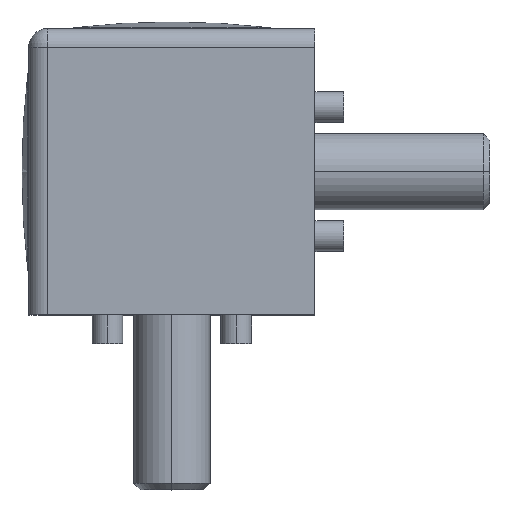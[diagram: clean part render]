
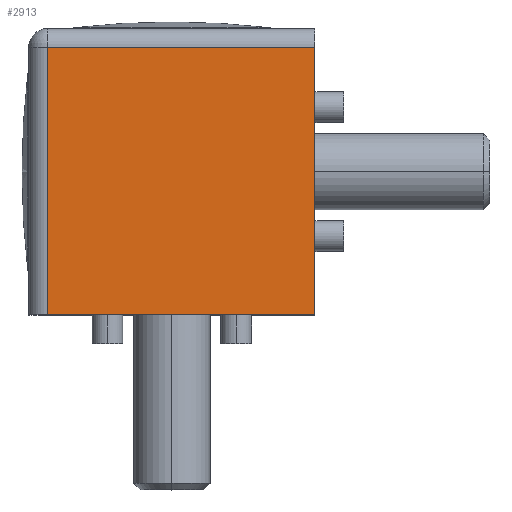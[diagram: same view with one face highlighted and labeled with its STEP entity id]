
A CAD part, top view. The second image highlights one B-rep face of the part: STEP entity #2913.
In plain terms, the highlighted planar face has unit normal (0, 0, 1).
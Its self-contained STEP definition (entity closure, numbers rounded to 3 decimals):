
#133 = PLANE('',#134);
#134 = AXIS2_PLACEMENT_3D('',#135,#136,#137);
#135 = CARTESIAN_POINT('',(0.,-30.,30.));
#136 = DIRECTION('',(0.,1.,0.));
#137 = DIRECTION('',(0.,-0.,1.));
#610 = PLANE('',#611);
#611 = AXIS2_PLACEMENT_3D('',#612,#613,#614);
#612 = CARTESIAN_POINT('',(30.,0.,30.));
#613 = DIRECTION('',(-1.,0.,0.));
#614 = DIRECTION('',(0.,-1.,0.));
#2010 = VERTEX_POINT('',#2011);
#2011 = CARTESIAN_POINT('',(30.,-30.,30.));
#2032 = EDGE_CURVE('',#2033,#2010,#2035,.T.);
#2033 = VERTEX_POINT('',#2034);
#2034 = CARTESIAN_POINT('',(2.,-30.,30.));
#2035 = SURFACE_CURVE('',#2036,(#2040,#2047),.PCURVE_S1.);
#2036 = LINE('',#2037,#2038);
#2037 = CARTESIAN_POINT('',(0.,-30.,30.));
#2038 = VECTOR('',#2039,1.);
#2039 = DIRECTION('',(1.,0.,0.));
#2040 = PCURVE('',#133,#2041);
#2041 = DEFINITIONAL_REPRESENTATION('',(#2042),#2046);
#2042 = LINE('',#2043,#2044);
#2043 = CARTESIAN_POINT('',(0.,0.));
#2044 = VECTOR('',#2045,1.);
#2045 = DIRECTION('',(0.,1.));
#2046 = ( GEOMETRIC_REPRESENTATION_CONTEXT(2) 
PARAMETRIC_REPRESENTATION_CONTEXT() REPRESENTATION_CONTEXT('2D SPACE',''
  ) );
#2047 = PCURVE('',#2048,#2053);
#2048 = PLANE('',#2049);
#2049 = AXIS2_PLACEMENT_3D('',#2050,#2051,#2052);
#2050 = CARTESIAN_POINT('',(0.,-30.,30.));
#2051 = DIRECTION('',(-0.,0.,1.));
#2052 = DIRECTION('',(1.,0.,0.));
#2053 = DEFINITIONAL_REPRESENTATION('',(#2054),#2058);
#2054 = LINE('',#2055,#2056);
#2055 = CARTESIAN_POINT('',(0.,0.));
#2056 = VECTOR('',#2057,1.);
#2057 = DIRECTION('',(1.,0.));
#2058 = ( GEOMETRIC_REPRESENTATION_CONTEXT(2) 
PARAMETRIC_REPRESENTATION_CONTEXT() REPRESENTATION_CONTEXT('2D SPACE',''
  ) );
#2081 = CYLINDRICAL_SURFACE('',#2082,2.);
#2082 = AXIS2_PLACEMENT_3D('',#2083,#2084,#2085);
#2083 = CARTESIAN_POINT('',(2.,-30.,28.));
#2084 = DIRECTION('',(0.,1.,0.));
#2085 = DIRECTION('',(-1.,0.,-0.));
#2446 = VERTEX_POINT('',#2447);
#2447 = CARTESIAN_POINT('',(30.,-2.,30.));
#2466 = CYLINDRICAL_SURFACE('',#2467,2.);
#2467 = AXIS2_PLACEMENT_3D('',#2468,#2469,#2470);
#2468 = CARTESIAN_POINT('',(0.,-2.,28.));
#2469 = DIRECTION('',(1.,0.,0.));
#2470 = DIRECTION('',(0.,0.,-1.));
#2478 = EDGE_CURVE('',#2010,#2446,#2479,.T.);
#2479 = SURFACE_CURVE('',#2480,(#2484,#2491),.PCURVE_S1.);
#2480 = LINE('',#2481,#2482);
#2481 = CARTESIAN_POINT('',(30.,0.,30.));
#2482 = VECTOR('',#2483,1.);
#2483 = DIRECTION('',(0.,1.,-0.));
#2484 = PCURVE('',#610,#2485);
#2485 = DEFINITIONAL_REPRESENTATION('',(#2486),#2490);
#2486 = LINE('',#2487,#2488);
#2487 = CARTESIAN_POINT('',(0.,0.));
#2488 = VECTOR('',#2489,1.);
#2489 = DIRECTION('',(-1.,0.));
#2490 = ( GEOMETRIC_REPRESENTATION_CONTEXT(2) 
PARAMETRIC_REPRESENTATION_CONTEXT() REPRESENTATION_CONTEXT('2D SPACE',''
  ) );
#2491 = PCURVE('',#2048,#2492);
#2492 = DEFINITIONAL_REPRESENTATION('',(#2493),#2497);
#2493 = LINE('',#2494,#2495);
#2494 = CARTESIAN_POINT('',(30.,30.));
#2495 = VECTOR('',#2496,1.);
#2496 = DIRECTION('',(0.,1.));
#2497 = ( GEOMETRIC_REPRESENTATION_CONTEXT(2) 
PARAMETRIC_REPRESENTATION_CONTEXT() REPRESENTATION_CONTEXT('2D SPACE',''
  ) );
#2913 = ADVANCED_FACE('',(#2914),#2048,.T.);
#2914 = FACE_BOUND('',#2915,.T.);
#2915 = EDGE_LOOP('',(#2916,#2917,#2940,#2961));
#2916 = ORIENTED_EDGE('',*,*,#2478,.T.);
#2917 = ORIENTED_EDGE('',*,*,#2918,.T.);
#2918 = EDGE_CURVE('',#2446,#2919,#2921,.T.);
#2919 = VERTEX_POINT('',#2920);
#2920 = CARTESIAN_POINT('',(2.,-2.,30.));
#2921 = SURFACE_CURVE('',#2922,(#2926,#2933),.PCURVE_S1.);
#2922 = LINE('',#2923,#2924);
#2923 = CARTESIAN_POINT('',(0.,-2.,30.));
#2924 = VECTOR('',#2925,1.);
#2925 = DIRECTION('',(-1.,0.,0.));
#2926 = PCURVE('',#2048,#2927);
#2927 = DEFINITIONAL_REPRESENTATION('',(#2928),#2932);
#2928 = LINE('',#2929,#2930);
#2929 = CARTESIAN_POINT('',(0.,28.));
#2930 = VECTOR('',#2931,1.);
#2931 = DIRECTION('',(-1.,0.));
#2932 = ( GEOMETRIC_REPRESENTATION_CONTEXT(2) 
PARAMETRIC_REPRESENTATION_CONTEXT() REPRESENTATION_CONTEXT('2D SPACE',''
  ) );
#2933 = PCURVE('',#2466,#2934);
#2934 = DEFINITIONAL_REPRESENTATION('',(#2935),#2939);
#2935 = LINE('',#2936,#2937);
#2936 = CARTESIAN_POINT('',(3.142,0.));
#2937 = VECTOR('',#2938,1.);
#2938 = DIRECTION('',(0.,-1.));
#2939 = ( GEOMETRIC_REPRESENTATION_CONTEXT(2) 
PARAMETRIC_REPRESENTATION_CONTEXT() REPRESENTATION_CONTEXT('2D SPACE',''
  ) );
#2940 = ORIENTED_EDGE('',*,*,#2941,.T.);
#2941 = EDGE_CURVE('',#2919,#2033,#2942,.T.);
#2942 = SURFACE_CURVE('',#2943,(#2947,#2954),.PCURVE_S1.);
#2943 = LINE('',#2944,#2945);
#2944 = CARTESIAN_POINT('',(2.,-30.,30.));
#2945 = VECTOR('',#2946,1.);
#2946 = DIRECTION('',(0.,-1.,0.));
#2947 = PCURVE('',#2048,#2948);
#2948 = DEFINITIONAL_REPRESENTATION('',(#2949),#2953);
#2949 = LINE('',#2950,#2951);
#2950 = CARTESIAN_POINT('',(2.,0.));
#2951 = VECTOR('',#2952,1.);
#2952 = DIRECTION('',(0.,-1.));
#2953 = ( GEOMETRIC_REPRESENTATION_CONTEXT(2) 
PARAMETRIC_REPRESENTATION_CONTEXT() REPRESENTATION_CONTEXT('2D SPACE',''
  ) );
#2954 = PCURVE('',#2081,#2955);
#2955 = DEFINITIONAL_REPRESENTATION('',(#2956),#2960);
#2956 = LINE('',#2957,#2958);
#2957 = CARTESIAN_POINT('',(1.571,0.));
#2958 = VECTOR('',#2959,1.);
#2959 = DIRECTION('',(0.,-1.));
#2960 = ( GEOMETRIC_REPRESENTATION_CONTEXT(2) 
PARAMETRIC_REPRESENTATION_CONTEXT() REPRESENTATION_CONTEXT('2D SPACE',''
  ) );
#2961 = ORIENTED_EDGE('',*,*,#2032,.T.);
